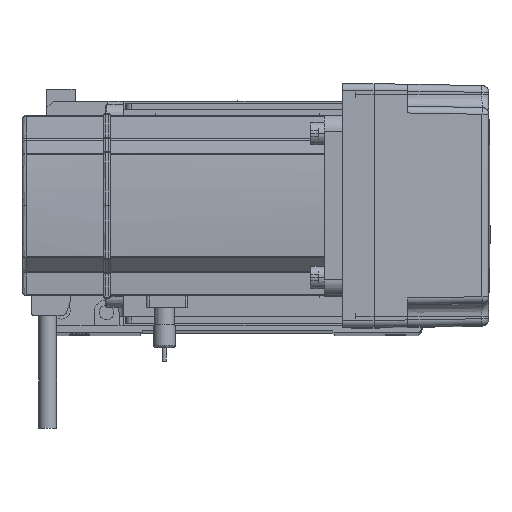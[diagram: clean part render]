
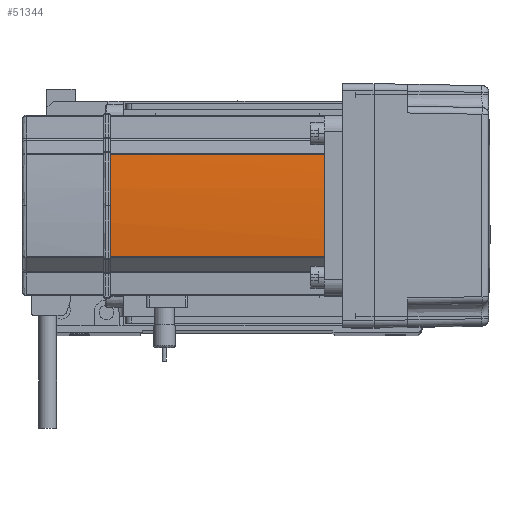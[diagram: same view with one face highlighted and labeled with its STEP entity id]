
A CAD part, top view. The second image highlights one B-rep face of the part: STEP entity #51344.
In plain terms, the highlighted cylindrical face has radius 270 mm (diameter 540 mm), a partial arc.
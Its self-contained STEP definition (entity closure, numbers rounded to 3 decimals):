
#110 = ORIENTED_EDGE ( 'NONE', *, *, #33494, .T. ) ;
#995 = DIRECTION ( 'NONE',  ( 0., 0., 1. ) ) ;
#1077 = DIRECTION ( 'NONE',  ( 0., 0., -1. ) ) ;
#1927 = DIRECTION ( 'NONE',  ( 0., 0., -1. ) ) ;
#2846 = EDGE_CURVE ( 'NONE', #50434, #36786, #29145, .T. ) ;
#6373 = CARTESIAN_POINT ( 'NONE',  ( 230., 0., 134. ) ) ;
#9414 = CARTESIAN_POINT ( 'NONE',  ( -39.042, -22.724, 39. ) ) ;
#9529 = VECTOR ( 'NONE', #48522, 1000. ) ;
#10858 = CARTESIAN_POINT ( 'NONE',  ( -39.042, -22.724, 134. ) ) ;
#16862 = ORIENTED_EDGE ( 'NONE', *, *, #19111, .T. ) ;
#18474 = AXIS2_PLACEMENT_3D ( 'NONE', #54034, #19069, #49268 ) ;
#19069 = DIRECTION ( 'NONE',  ( 0., 0., -1. ) ) ;
#19111 = EDGE_CURVE ( 'NONE', #54956, #33596, #24099, .T. ) ;
#21276 = LINE ( 'NONE', #26240, #9529 ) ;
#21564 = DIRECTION ( 'NONE',  ( 1., 0., 0. ) ) ;
#22663 = AXIS2_PLACEMENT_3D ( 'NONE', #48072, #43612, #21564 ) ;
#24099 = CIRCLE ( 'NONE', #55460, 270. ) ;
#26240 = CARTESIAN_POINT ( 'NONE',  ( -39.042, 22.724, 0. ) ) ;
#26610 = EDGE_CURVE ( 'NONE', #50434, #48545, #53042, .T. ) ;
#27180 = ORIENTED_EDGE ( 'NONE', *, *, #27481, .T. ) ;
#27481 = EDGE_CURVE ( 'NONE', #36786, #54956, #33689, .T. ) ;
#27888 = CARTESIAN_POINT ( 'NONE',  ( -39.042, 22.724, 39. ) ) ;
#28502 = CARTESIAN_POINT ( 'NONE',  ( -39.042, 22.724, 134. ) ) ;
#28607 = DIRECTION ( 'NONE',  ( 1., 0., 0. ) ) ;
#29145 = LINE ( 'NONE', #31725, #49896 ) ;
#30430 = ORIENTED_EDGE ( 'NONE', *, *, #2846, .T. ) ;
#31725 = CARTESIAN_POINT ( 'NONE',  ( -39.042, -22.724, 0. ) ) ;
#32010 = DIRECTION ( 'NONE',  ( 1., 0., 0. ) ) ;
#33494 = EDGE_CURVE ( 'NONE', #33596, #48545, #21276, .T. ) ;
#33596 = VERTEX_POINT ( 'NONE', #28502 ) ;
#33689 = CIRCLE ( 'NONE', #41866, 270. ) ;
#36069 = CARTESIAN_POINT ( 'NONE',  ( 230., 0., 134. ) ) ;
#36786 = VERTEX_POINT ( 'NONE', #10858 ) ;
#41866 = AXIS2_PLACEMENT_3D ( 'NONE', #6373, #1927, #28607 ) ;
#43612 = DIRECTION ( 'NONE',  ( 0., 0., 1. ) ) ;
#45302 = EDGE_LOOP ( 'NONE', ( #27180, #16862, #110, #52696, #30430 ) ) ;
#47366 = CYLINDRICAL_SURFACE ( 'NONE', #22663, 270. ) ;
#48072 = CARTESIAN_POINT ( 'NONE',  ( 230., 0., 0. ) ) ;
#48079 = FACE_OUTER_BOUND ( 'NONE', #45302, .T. ) ;
#48522 = DIRECTION ( 'NONE',  ( 0., 0., -1. ) ) ;
#48545 = VERTEX_POINT ( 'NONE', #27888 ) ;
#49268 = DIRECTION ( 'NONE',  ( 1., 0., 0. ) ) ;
#49896 = VECTOR ( 'NONE', #995, 1000. ) ;
#50434 = VERTEX_POINT ( 'NONE', #9414 ) ;
#51344 = ADVANCED_FACE ( 'NONE', ( #48079 ), #47366, .T. ) ;
#52696 = ORIENTED_EDGE ( 'NONE', *, *, #26610, .F. ) ;
#53042 = CIRCLE ( 'NONE', #18474, 270. ) ;
#54034 = CARTESIAN_POINT ( 'NONE',  ( 230., 0., 39. ) ) ;
#54956 = VERTEX_POINT ( 'NONE', #55338 ) ;
#55338 = CARTESIAN_POINT ( 'NONE',  ( -40., 0., 134. ) ) ;
#55460 = AXIS2_PLACEMENT_3D ( 'NONE', #36069, #1077, #32010 ) ;
